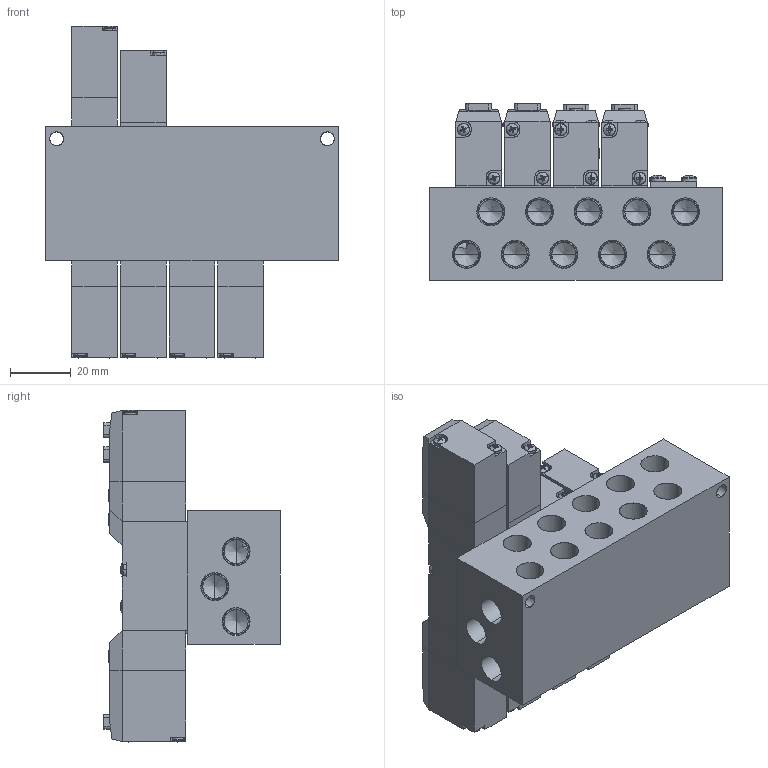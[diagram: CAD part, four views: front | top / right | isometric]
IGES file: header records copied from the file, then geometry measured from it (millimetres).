
Start section: SolidWorks IGES file using analytic representation for surfaces
Global section: file name: D:\Custom\3D繪製\PC\PC5\MFS#-PC5-01-L.IGS, ; native system: SolidWorks 2014; preprocessor: SolidWorks 2014; author: Chieh_Lu; date: 150729.231320; units: millimetre
Bounding box: 96 x 58 x 109.14 mm (x, y, z)
Surface area: 73559.6 mm2 (no closed solid volume)
Topology: 0 solids, 0 shells, 2122 faces, 19731 edges, 19623 vertices
Faces by surface type: bspline 1288, revolution 834
